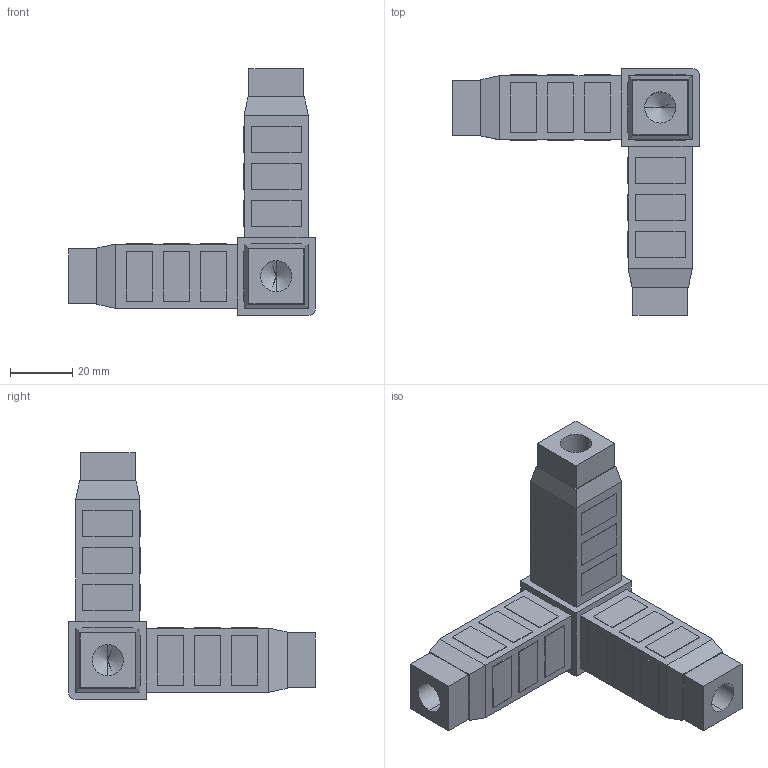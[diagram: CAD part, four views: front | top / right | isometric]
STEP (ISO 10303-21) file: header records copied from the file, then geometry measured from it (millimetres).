
FILE_DESCRIPTION (( 'STEP AP203' ), '1' );
FILE_NAME ('F025103.STEP', '2017-03-22T12:37:43', ( 'Localadmin' ), ( 'Microsoft' ), 'SwSTEP 2.0', 'SolidWorks 2016', '' );
FILE_SCHEMA (( 'CONFIG_CONTROL_DESIGN' ));
Length unit declared in the file: millimetre
Products named in the file (1): F025103
Bounding box: 79 x 79 x 79 mm (x, y, z)
Volume: 66818.6 mm3; surface area: 44699.4 mm2
Topology: 2 solids, 2 shells, 250 faces, 598 edges, 386 vertices
Faces by surface type: plane 234, cylinder 9, cone 6, sphere 1
Entity records: 7104 total; most frequent: CARTESIAN_POINT 1228, ORIENTED_EDGE 1182, DIRECTION 1111, EDGE_CURVE 591, LINE 573, VECTOR 573, VERTEX_POINT 386, EDGE_LOOP 295
